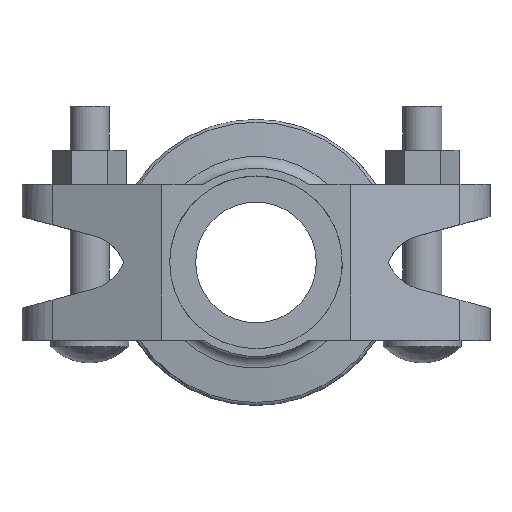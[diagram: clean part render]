
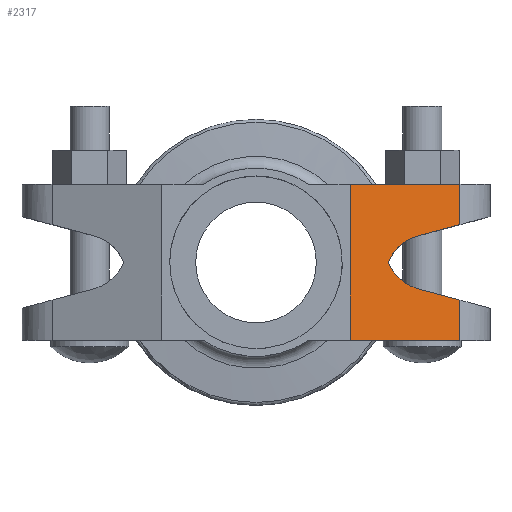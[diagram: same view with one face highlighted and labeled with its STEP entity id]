
A CAD part, top view. The second image highlights one B-rep face of the part: STEP entity #2317.
In plain terms, the highlighted planar face has unit normal (0.344, 0, 0.939).
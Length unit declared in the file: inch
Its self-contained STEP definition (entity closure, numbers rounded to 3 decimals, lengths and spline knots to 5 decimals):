
#118=ELLIPSE('',#2466,0.46858,0.44);
#119=ELLIPSE('',#2468,0.46858,0.44);
#188=PLANE('',#2520);
#266=FACE_OUTER_BOUND('',#387,.T.);
#387=EDGE_LOOP('',(#1754,#1755,#1756,#1757,#1758,#1759,#1760,#1761,#1762));
#538=LINE('',#3689,#709);
#543=LINE('',#3706,#714);
#552=LINE('',#3730,#723);
#553=LINE('',#3733,#724);
#554=LINE('',#3737,#725);
#555=LINE('',#3739,#726);
#556=LINE('',#3740,#727);
#709=VECTOR('',#2956,0.3937);
#714=VECTOR('',#2971,0.3937);
#723=VECTOR('',#2996,0.3937);
#724=VECTOR('',#2999,0.3937);
#725=VECTOR('',#3004,0.3937);
#726=VECTOR('',#3005,0.3937);
#727=VECTOR('',#3006,0.3937);
#957=VERTEX_POINT('',#3545);
#958=VERTEX_POINT('',#3547);
#959=VERTEX_POINT('',#3551);
#993=VERTEX_POINT('',#3688);
#1000=VERTEX_POINT('',#3704);
#1007=VERTEX_POINT('',#3728);
#1008=VERTEX_POINT('',#3732);
#1009=VERTEX_POINT('',#3736);
#1010=VERTEX_POINT('',#3738);
#1214=EDGE_CURVE('',#957,#958,#118,.T.);
#1217=EDGE_CURVE('',#957,#959,#119,.F.);
#1266=EDGE_CURVE('',#993,#958,#538,.T.);
#1275=EDGE_CURVE('',#959,#1000,#543,.T.);
#1287=EDGE_CURVE('',#1007,#1000,#552,.T.);
#1288=EDGE_CURVE('',#993,#1008,#553,.T.);
#1290=EDGE_CURVE('',#1009,#1007,#554,.T.);
#1291=EDGE_CURVE('',#1009,#1010,#555,.T.);
#1292=EDGE_CURVE('',#1008,#1010,#556,.T.);
#1754=ORIENTED_EDGE('',*,*,#1266,.T.);
#1755=ORIENTED_EDGE('',*,*,#1214,.F.);
#1756=ORIENTED_EDGE('',*,*,#1217,.T.);
#1757=ORIENTED_EDGE('',*,*,#1275,.T.);
#1758=ORIENTED_EDGE('',*,*,#1287,.F.);
#1759=ORIENTED_EDGE('',*,*,#1290,.F.);
#1760=ORIENTED_EDGE('',*,*,#1291,.T.);
#1761=ORIENTED_EDGE('',*,*,#1292,.F.);
#1762=ORIENTED_EDGE('',*,*,#1288,.F.);
#2317=ADVANCED_FACE('',(#266),#188,.T.);
#2466=AXIS2_PLACEMENT_3D('',#3548,#2851,#2852);
#2468=AXIS2_PLACEMENT_3D('',#3553,#2857,#2858);
#2520=AXIS2_PLACEMENT_3D('',#3735,#3002,#3003);
#2851=DIRECTION('center_axis',(0.344,0.,0.939));
#2852=DIRECTION('ref_axis',(-0.939,0.,0.344));
#2857=DIRECTION('center_axis',(0.344,0.,0.939));
#2858=DIRECTION('ref_axis',(-0.939,0.,0.344));
#2956=DIRECTION('',(-0.911,0.244,0.333));
#2971=DIRECTION('',(0.911,0.244,-0.333));
#2996=DIRECTION('',(0.,-1.,0.));
#2999=DIRECTION('',(0.,-1.,0.));
#3002=DIRECTION('center_axis',(0.344,0.,0.939));
#3003=DIRECTION('ref_axis',(-0.939,0.,0.344));
#3004=DIRECTION('',(0.939,0.,-0.344));
#3005=DIRECTION('',(0.,-1.,0.));
#3006=DIRECTION('',(-0.939,0.,0.344));
#3545=CARTESIAN_POINT('',(1.26959,0.,0.80648));
#3547=CARTESIAN_POINT('',(1.56179,-0.2556,0.69947));
#3548=CARTESIAN_POINT('Origin',(1.67567,0.16941,0.65777));
#3551=CARTESIAN_POINT('',(1.56179,0.2556,0.69947));
#3553=CARTESIAN_POINT('Origin',(1.67567,-0.16941,0.65777));
#3688=CARTESIAN_POINT('',(1.96131,-0.36264,0.55317));
#3689=CARTESIAN_POINT('',(2.1333,-0.40873,0.49018));
#3704=CARTESIAN_POINT('',(1.96131,0.36264,0.55317));
#3706=CARTESIAN_POINT('',(1.70913,0.29507,0.64552));
#3728=CARTESIAN_POINT('',(1.96131,0.75,0.55317));
#3730=CARTESIAN_POINT('',(1.96131,0.,0.55317));
#3732=CARTESIAN_POINT('',(1.96131,-0.75,0.55317));
#3733=CARTESIAN_POINT('',(1.96131,0.,0.55317));
#3735=CARTESIAN_POINT('Origin',(1.96131,0.,
0.55317));
#3736=CARTESIAN_POINT('',(0.905,0.75,0.94));
#3737=CARTESIAN_POINT('',(1.96131,0.75,0.55317));
#3738=CARTESIAN_POINT('',(0.905,-0.75,0.94));
#3739=CARTESIAN_POINT('',(0.905,0.,0.94));
#3740=CARTESIAN_POINT('',(1.96131,-0.75,0.55317));
